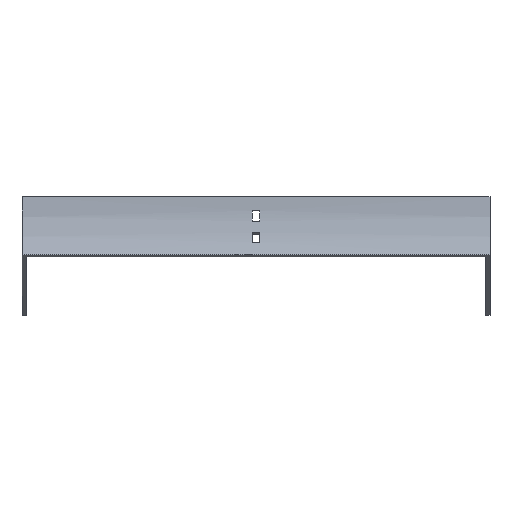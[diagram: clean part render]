
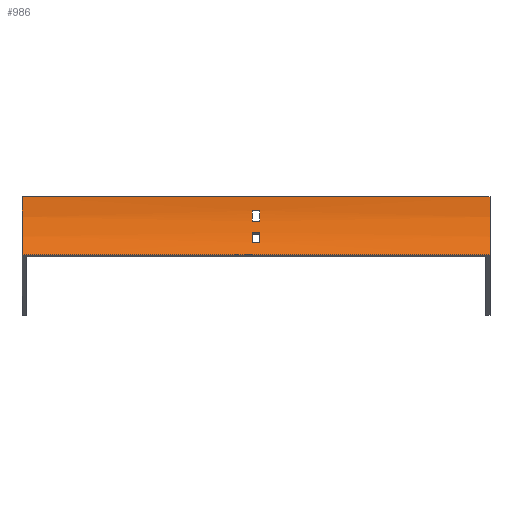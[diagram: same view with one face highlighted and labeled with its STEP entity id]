
A CAD part, front view. The second image highlights one B-rep face of the part: STEP entity #986.
In plain terms, the highlighted cylindrical face has radius 100 mm (diameter 200 mm), a partial arc.
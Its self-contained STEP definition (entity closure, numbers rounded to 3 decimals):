
#39 = VERTEX_POINT ( 'NONE', #918 ) ;
#41 = ORIENTED_EDGE ( 'NONE', *, *, #355, .F. ) ;
#50 = DIRECTION ( 'NONE',  ( 0., 0., 1. ) ) ;
#56 = CIRCLE ( 'NONE', #1510, 100. ) ;
#69 = DIRECTION ( 'NONE',  ( -1., 0., 0. ) ) ;
#71 = ORIENTED_EDGE ( 'NONE', *, *, #1016, .T. ) ;
#76 = CARTESIAN_POINT ( 'NONE',  ( -3.25, -4.829, -30.699 ) ) ;
#78 = EDGE_CURVE ( 'NONE', #433, #1097, #513, .T. ) ;
#88 = CIRCLE ( 'NONE', #537, 100. ) ;
#100 = CARTESIAN_POINT ( 'NONE',  ( 202., -0.723, -12. ) ) ;
#102 = DIRECTION ( 'NONE',  ( 0., 0., -1. ) ) ;
#129 = CARTESIAN_POINT ( 'NONE',  ( -202., 0., 0. ) ) ;
#154 = DIRECTION ( 'NONE',  ( -1., 0., 0. ) ) ;
#167 = VECTOR ( 'NONE', #154, 1000. ) ;
#176 = FACE_OUTER_BOUND ( 'NONE', #1543, .T. ) ;
#216 = DIRECTION ( 'NONE',  ( 1., 0., 0. ) ) ;
#220 = VERTEX_POINT ( 'NONE', #1310 ) ;
#226 = AXIS2_PLACEMENT_3D ( 'NONE', #464, #1472, #299 ) ;
#232 = ORIENTED_EDGE ( 'NONE', *, *, #831, .F. ) ;
#258 = AXIS2_PLACEMENT_3D ( 'NONE', #434, #1603, #50 ) ;
#288 = CARTESIAN_POINT ( 'NONE',  ( 202., -100., 0. ) ) ;
#297 = CARTESIAN_POINT ( 'NONE',  ( 202., -100., 0. ) ) ;
#299 = DIRECTION ( 'NONE',  ( 0., 0., -1. ) ) ;
#308 = EDGE_LOOP ( 'NONE', ( #1530, #1008, #1518, #894 ) ) ;
#315 = CYLINDRICAL_SURFACE ( 'NONE', #1646, 100. ) ;
#349 = EDGE_CURVE ( 'NONE', #1443, #920, #947, .T. ) ;
#355 = EDGE_CURVE ( 'NONE', #1500, #1063, #1088, .T. ) ;
#377 = DIRECTION ( 'NONE',  ( 0., 0., 1. ) ) ;
#433 = VERTEX_POINT ( 'NONE', #1111 ) ;
#434 = CARTESIAN_POINT ( 'NONE',  ( 3.25, -100., 0. ) ) ;
#464 = CARTESIAN_POINT ( 'NONE',  ( 3.25, -100., 0. ) ) ;
#468 = CARTESIAN_POINT ( 'NONE',  ( -202., -100., 0. ) ) ;
#470 = CARTESIAN_POINT ( 'NONE',  ( 202., -8.023, -39.246 ) ) ;
#491 = DIRECTION ( 'NONE',  ( -1., 0., 0. ) ) ;
#494 = ORIENTED_EDGE ( 'NONE', *, *, #78, .F. ) ;
#502 = EDGE_CURVE ( 'NONE', #1426, #1456, #1102, .T. ) ;
#513 = LINE ( 'NONE', #1041, #1186 ) ;
#528 = EDGE_CURVE ( 'NONE', #920, #220, #724, .T. ) ;
#537 = AXIS2_PLACEMENT_3D ( 'NONE', #1520, #216, #377 ) ;
#570 = DIRECTION ( 'NONE',  ( 1., 0., 0. ) ) ;
#700 = VECTOR ( 'NONE', #570, 1000. ) ;
#702 = AXIS2_PLACEMENT_3D ( 'NONE', #468, #816, #1339 ) ;
#708 = FACE_BOUND ( 'NONE', #308, .T. ) ;
#718 = ORIENTED_EDGE ( 'NONE', *, *, #1305, .F. ) ;
#724 = CIRCLE ( 'NONE', #226, 100. ) ;
#743 = CARTESIAN_POINT ( 'NONE',  ( -3.25, -8.023, -39.246 ) ) ;
#750 = VECTOR ( 'NONE', #491, 1000. ) ;
#816 = DIRECTION ( 'NONE',  ( -1., 0., 0. ) ) ;
#825 = DIRECTION ( 'NONE',  ( 0., 0., 1. ) ) ;
#831 = EDGE_CURVE ( 'NONE', #39, #433, #56, .T. ) ;
#864 = AXIS2_PLACEMENT_3D ( 'NONE', #1249, #69, #102 ) ;
#867 = CARTESIAN_POINT ( 'NONE',  ( 202., 0., 0. ) ) ;
#890 = CARTESIAN_POINT ( 'NONE',  ( 3.25, -8.023, -39.246 ) ) ;
#894 = ORIENTED_EDGE ( 'NONE', *, *, #528, .T. ) ;
#917 = DIRECTION ( 'NONE',  ( -1., 0., 0. ) ) ;
#918 = CARTESIAN_POINT ( 'NONE',  ( 202., 0., 0. ) ) ;
#920 = VERTEX_POINT ( 'NONE', #1100 ) ;
#935 = DIRECTION ( 'NONE',  ( 1., 0., 0. ) ) ;
#947 = LINE ( 'NONE', #100, #1080 ) ;
#986 = ADVANCED_FACE ( 'NONE', ( #176, #708, #1597 ), #315, .F. ) ;
#993 = CARTESIAN_POINT ( 'NONE',  ( -3.25, -0.723, -12. ) ) ;
#1001 = CIRCLE ( 'NONE', #702, 100. ) ;
#1008 = ORIENTED_EDGE ( 'NONE', *, *, #1532, .T. ) ;
#1016 = EDGE_CURVE ( 'NONE', #39, #1220, #1635, .T. ) ;
#1025 = CIRCLE ( 'NONE', #864, 100. ) ;
#1033 = DIRECTION ( 'NONE',  ( -1., 0., 0. ) ) ;
#1041 = CARTESIAN_POINT ( 'NONE',  ( 202., -13.397, -50. ) ) ;
#1050 = EDGE_LOOP ( 'NONE', ( #1209, #41, #718, #1476 ) ) ;
#1063 = VERTEX_POINT ( 'NONE', #76 ) ;
#1064 = EDGE_CURVE ( 'NONE', #1063, #1426, #1025, .T. ) ;
#1080 = VECTOR ( 'NONE', #935, 1000. ) ;
#1088 = LINE ( 'NONE', #1196, #167 ) ;
#1097 = VERTEX_POINT ( 'NONE', #1673 ) ;
#1100 = CARTESIAN_POINT ( 'NONE',  ( 3.25, -0.723, -12. ) ) ;
#1102 = LINE ( 'NONE', #470, #700 ) ;
#1111 = CARTESIAN_POINT ( 'NONE',  ( 202., -13.397, -50. ) ) ;
#1112 = EDGE_CURVE ( 'NONE', #220, #1126, #1536, .T. ) ;
#1126 = VERTEX_POINT ( 'NONE', #1411 ) ;
#1129 = CARTESIAN_POINT ( 'NONE',  ( 3.25, -4.829, -30.699 ) ) ;
#1135 = VECTOR ( 'NONE', #1141, 1000. ) ;
#1141 = DIRECTION ( 'NONE',  ( -1., 0., 0. ) ) ;
#1148 = CARTESIAN_POINT ( 'NONE',  ( 202., -2.23, -21. ) ) ;
#1186 = VECTOR ( 'NONE', #1033, 1000. ) ;
#1190 = CIRCLE ( 'NONE', #258, 100. ) ;
#1196 = CARTESIAN_POINT ( 'NONE',  ( 202., -4.829, -30.699 ) ) ;
#1209 = ORIENTED_EDGE ( 'NONE', *, *, #1064, .F. ) ;
#1220 = VERTEX_POINT ( 'NONE', #129 ) ;
#1222 = DIRECTION ( 'NONE',  ( -1., 0., 0. ) ) ;
#1249 = CARTESIAN_POINT ( 'NONE',  ( -3.25, -100., 0. ) ) ;
#1305 = EDGE_CURVE ( 'NONE', #1456, #1500, #1190, .T. ) ;
#1310 = CARTESIAN_POINT ( 'NONE',  ( 3.25, -2.23, -21. ) ) ;
#1339 = DIRECTION ( 'NONE',  ( 0., 0., 1. ) ) ;
#1346 = ORIENTED_EDGE ( 'NONE', *, *, #1358, .T. ) ;
#1358 = EDGE_CURVE ( 'NONE', #1220, #1097, #1001, .T. ) ;
#1411 = CARTESIAN_POINT ( 'NONE',  ( -3.25, -2.23, -21. ) ) ;
#1426 = VERTEX_POINT ( 'NONE', #743 ) ;
#1443 = VERTEX_POINT ( 'NONE', #993 ) ;
#1456 = VERTEX_POINT ( 'NONE', #890 ) ;
#1472 = DIRECTION ( 'NONE',  ( -1., 0., 0. ) ) ;
#1476 = ORIENTED_EDGE ( 'NONE', *, *, #502, .F. ) ;
#1500 = VERTEX_POINT ( 'NONE', #1129 ) ;
#1510 = AXIS2_PLACEMENT_3D ( 'NONE', #288, #917, #1556 ) ;
#1518 = ORIENTED_EDGE ( 'NONE', *, *, #349, .T. ) ;
#1520 = CARTESIAN_POINT ( 'NONE',  ( -3.25, -100., 0. ) ) ;
#1530 = ORIENTED_EDGE ( 'NONE', *, *, #1112, .T. ) ;
#1532 = EDGE_CURVE ( 'NONE', #1126, #1443, #88, .T. ) ;
#1536 = LINE ( 'NONE', #1148, #1135 ) ;
#1543 = EDGE_LOOP ( 'NONE', ( #1346, #494, #232, #71 ) ) ;
#1556 = DIRECTION ( 'NONE',  ( 0., 0., 1. ) ) ;
#1597 = FACE_BOUND ( 'NONE', #1050, .T. ) ;
#1603 = DIRECTION ( 'NONE',  ( 1., 0., 0. ) ) ;
#1635 = LINE ( 'NONE', #867, #750 ) ;
#1646 = AXIS2_PLACEMENT_3D ( 'NONE', #297, #1222, #825 ) ;
#1673 = CARTESIAN_POINT ( 'NONE',  ( -202., -13.397, -50. ) ) ;
